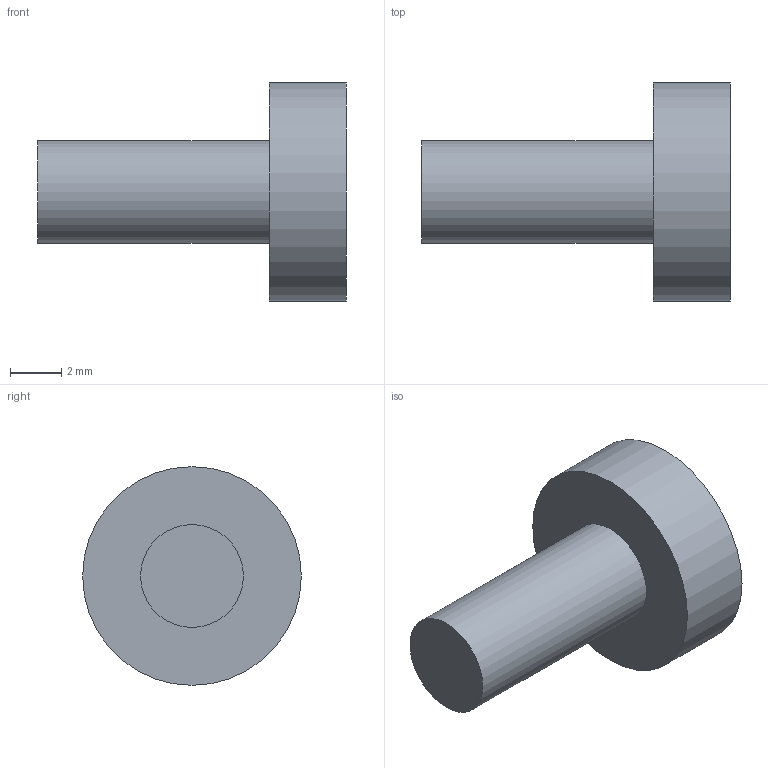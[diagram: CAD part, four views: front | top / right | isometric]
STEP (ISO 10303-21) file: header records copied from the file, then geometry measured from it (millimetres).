
FILE_DESCRIPTION(('Open CASCADE Model'),'2;1');
FILE_NAME('output_R12_M5_retainer_thread_envelope','2026-09-28T18:17:09' ,('Author'),('Open CASCADE'),'Open CASCADE STEP processor 7.9', 'build123d','Unknown');
FILE_SCHEMA(('AUTOMOTIVE_DESIGN { 1 0 10303 214 1 1 1 1 }'));
Length unit declared in the file: millimetre
Products named in the file (1): output_R12_M5_retainer_thread_envelope
Bounding box: 12 x 8.5 x 8.5 mm (x, y, z)
Volume: 257.2 mm3; surface area: 332.9 mm2
Topology: 1 solids, 1 shells, 12 faces, 24 edges, 16 vertices
Faces by surface type: plane 10, cylinder 2
Full cylindrical faces by diameter (mm): 4 x1, 8.5 x1
Entity records: 633 total; most frequent: CARTESIAN_POINT 113, DIRECTION 90, LINE 52, VECTOR 52, ORIENTED_EDGE 48, PCURVE 48, DEFINITIONAL_REPRESENTATION 48, EDGE_CURVE 24
